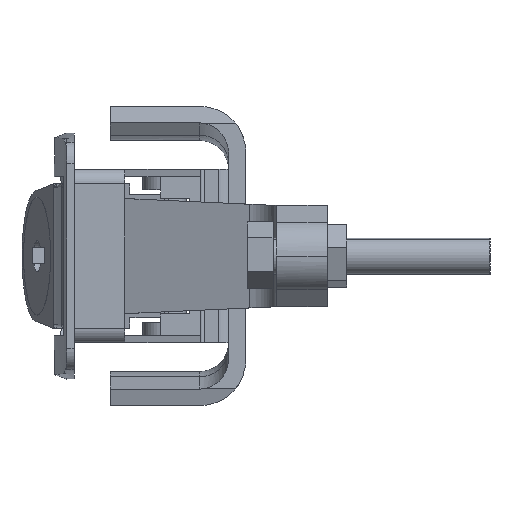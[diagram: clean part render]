
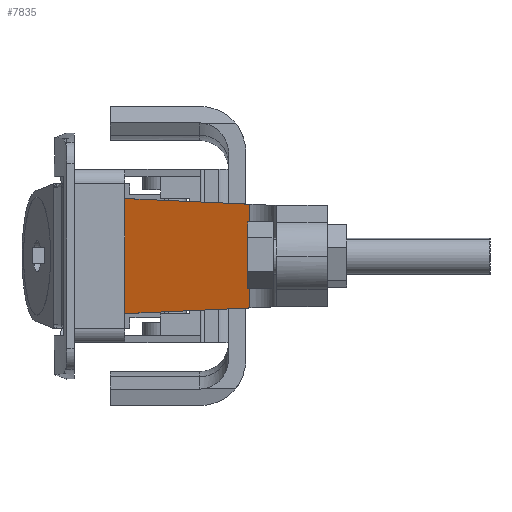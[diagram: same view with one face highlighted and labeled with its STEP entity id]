
A CAD part, left-side view. The second image highlights one B-rep face of the part: STEP entity #7835.
In plain terms, the highlighted planar face has unit normal (-0.946, 0.326, 0).
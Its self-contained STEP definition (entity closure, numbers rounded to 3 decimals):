
#50 = CARTESIAN_POINT ( 'NONE',  ( -15.454, -36.485, 44.516 ) ) ;
#631 = VERTEX_POINT ( 'NONE', #14475 ) ;
#652 = CARTESIAN_POINT ( 'NONE',  ( -13.36, -30.405, 41.962 ) ) ;
#1403 = CARTESIAN_POINT ( 'NONE',  ( -11.266, -24.324, 26.793 ) ) ;
#1773 = CARTESIAN_POINT ( 'NONE',  ( -9.172, -18.244, 42.516 ) ) ;
#2066 = DIRECTION ( 'NONE',  ( -0.946, 0.326, 0. ) ) ;
#2265 = CARTESIAN_POINT ( 'NONE',  ( -9.172, -18.243, 26.516 ) ) ;
#2811 = B_SPLINE_CURVE_WITH_KNOTS ( 'NONE', 3,
 ( #8163, #1403, #13664, #3603 ),
 .UNSPECIFIED., .F., .F.,
 ( 4, 4 ),
 ( 0., 1. ),
 .UNSPECIFIED. ) ;
#3033 = B_SPLINE_CURVE_WITH_KNOTS ( 'NONE', 3,
 ( #2265, #10029, #7815, #11222 ),
 .UNSPECIFIED., .F., .F.,
 ( 4, 4 ),
 ( 0., 1. ),
 .UNSPECIFIED. ) ;
#3503 = CARTESIAN_POINT ( 'NONE',  ( -9.172, -18.244, 42.516 ) ) ;
#3603 = CARTESIAN_POINT ( 'NONE',  ( -15.454, -36.485, 27.347 ) ) ;
#4075 = ORIENTED_EDGE ( 'NONE', *, *, #14293, .T. ) ;
#4151 = DIRECTION ( 'NONE',  ( 0., 0., 1. ) ) ;
#4523 = EDGE_CURVE ( 'NONE', #6232, #10136, #4828, .T. ) ;
#4828 = LINE ( 'NONE', #6277, #13265 ) ;
#5995 = B_SPLINE_CURVE_WITH_KNOTS ( 'NONE', 3,
 ( #7361, #652, #13144, #1773 ),
 .UNSPECIFIED., .F., .F.,
 ( 4, 4 ),
 ( 0., 1. ),
 .UNSPECIFIED. ) ;
#6021 = FACE_OUTER_BOUND ( 'NONE', #8819, .T. ) ;
#6232 = VERTEX_POINT ( 'NONE', #14505 ) ;
#6277 = CARTESIAN_POINT ( 'NONE',  ( -15.454, -36.485, 34.516 ) ) ;
#6774 = PLANE ( 'NONE',  #12859 ) ;
#7361 = CARTESIAN_POINT ( 'NONE',  ( -15.454, -36.485, 41.685 ) ) ;
#7815 = CARTESIAN_POINT ( 'NONE',  ( -9.172, -18.243, 37.183 ) ) ;
#7835 = ADVANCED_FACE ( 'NONE', ( #6021 ), #6774, .T. ) ;
#7959 = ORIENTED_EDGE ( 'NONE', *, *, #14054, .T. ) ;
#8163 = CARTESIAN_POINT ( 'NONE',  ( -9.172, -18.243, 26.516 ) ) ;
#8819 = EDGE_LOOP ( 'NONE', ( #12354, #7959, #12370, #4075 ) ) ;
#8886 = EDGE_CURVE ( 'NONE', #631, #13302, #3033, .T. ) ;
#10029 = CARTESIAN_POINT ( 'NONE',  ( -9.172, -18.243, 31.85 ) ) ;
#10136 = VERTEX_POINT ( 'NONE', #11868 ) ;
#11216 = DIRECTION ( 'NONE',  ( 0.326, 0.946, 0. ) ) ;
#11222 = CARTESIAN_POINT ( 'NONE',  ( -9.172, -18.244, 42.516 ) ) ;
#11868 = CARTESIAN_POINT ( 'NONE',  ( -15.454, -36.485, 41.685 ) ) ;
#12354 = ORIENTED_EDGE ( 'NONE', *, *, #8886, .F. ) ;
#12370 = ORIENTED_EDGE ( 'NONE', *, *, #4523, .T. ) ;
#12859 = AXIS2_PLACEMENT_3D ( 'NONE', #50, #2066, #11216 ) ;
#13144 = CARTESIAN_POINT ( 'NONE',  ( -11.266, -24.324, 42.239 ) ) ;
#13265 = VECTOR ( 'NONE', #4151, 1000. ) ;
#13302 = VERTEX_POINT ( 'NONE', #3503 ) ;
#13664 = CARTESIAN_POINT ( 'NONE',  ( -13.36, -30.404, 27.07 ) ) ;
#14054 = EDGE_CURVE ( 'NONE', #631, #6232, #2811, .T. ) ;
#14293 = EDGE_CURVE ( 'NONE', #10136, #13302, #5995, .T. ) ;
#14475 = CARTESIAN_POINT ( 'NONE',  ( -9.172, -18.243, 26.516 ) ) ;
#14505 = CARTESIAN_POINT ( 'NONE',  ( -15.454, -36.485, 27.347 ) ) ;
